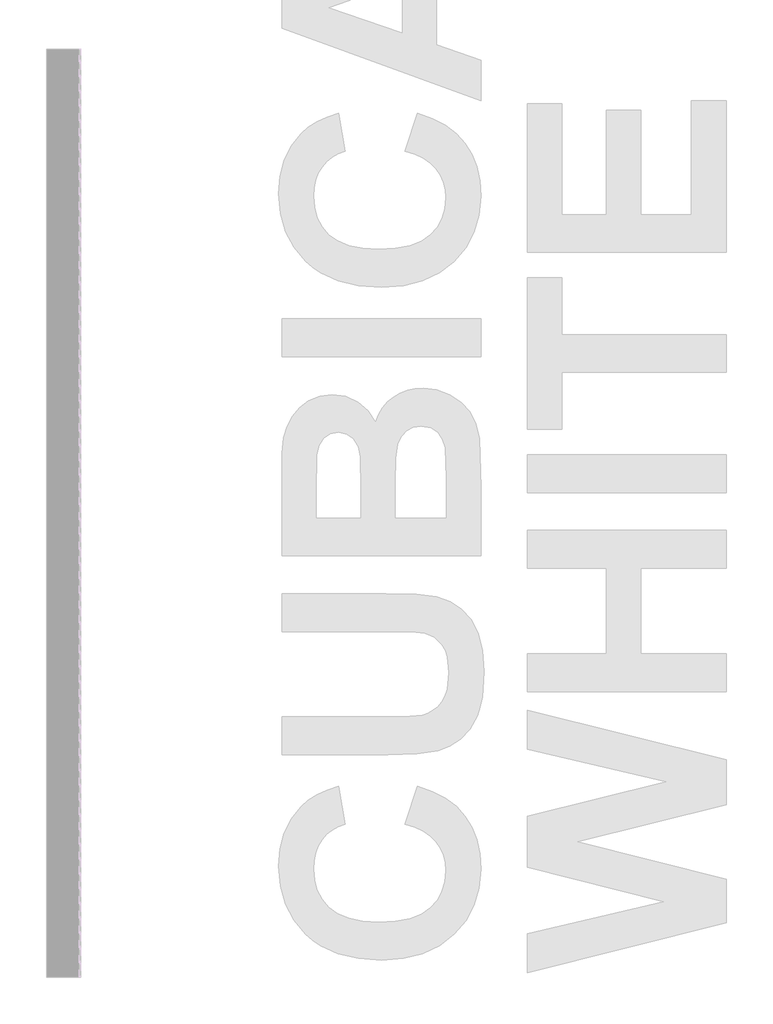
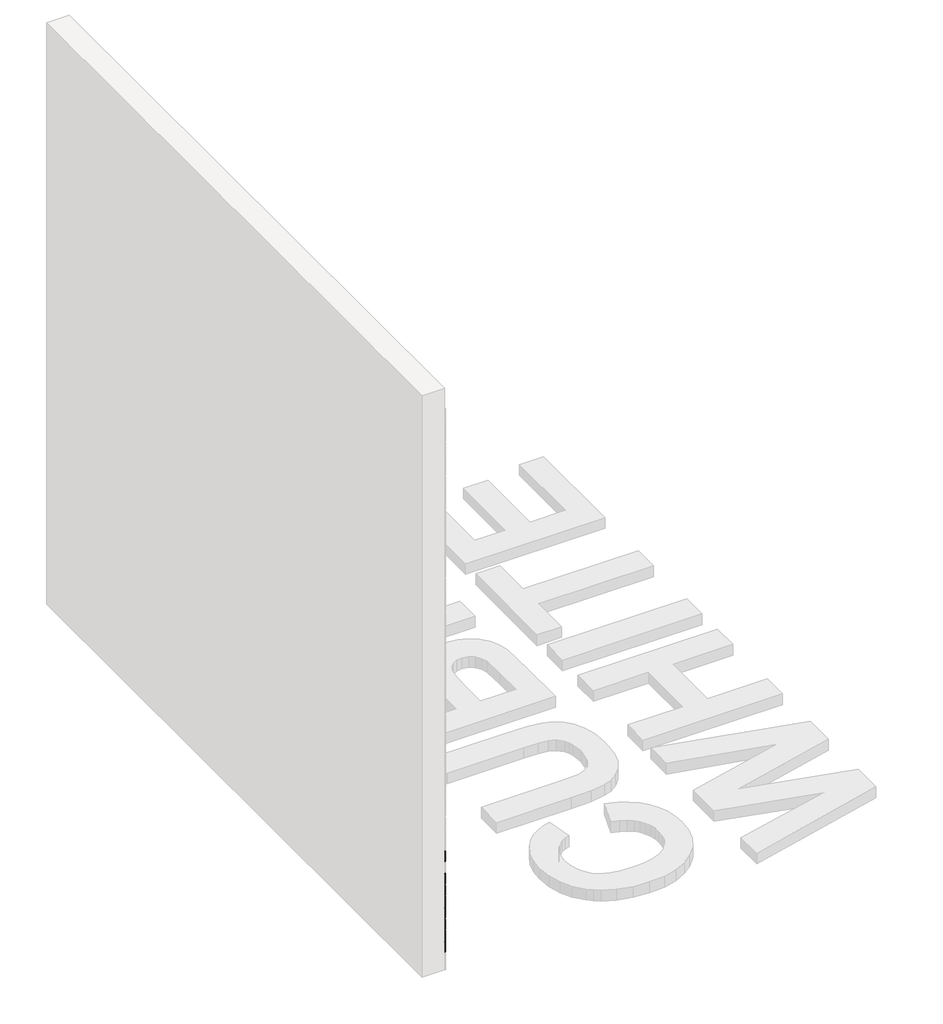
# One storey, part 98 of 121: 145 proxies.
"""IFC4 building model written with IfcOpenShell, lengths in millimetres."""

from ifc_helpers import new_model, si_unit, origin, place, context, project, spatial, transform, mapped, element, save
from components import generic_models_b2b2c5c1, generic_models_9bf73f6f, generic_models_5d175859, generic_models_45888c4d, generic_models_95f85f1d

model = new_model("IFC4")

# Units and contexts
model_context = context("Model", 3, world=origin())
ifc_project = project(units=[si_unit("LENGTHUNIT", "METRE", prefix="MILLI")], contexts=[model_context])

# Site, building, storey
site = spatial("IfcSite", under=ifc_project)
building = spatial("IfcBuilding", under=site)
storey = spatial("IfcBuildingStorey", under=building, Name="PORTOBELLO - SHOWROOM", Elevation=0.0)

# Proxies
placement = place(None, origin())
generic_models_shape = generic_models_b2b2c5c1(model_context)
element("IfcBuildingElementProxy", 1, Name="PBSHOP - CUBICA WHITE 4,8X8,3 : CUBICA WHITE - POSIÇÃO 01", ObjectType="PBSHOP - CUBICA WHITE 4,8X8,3 : CUBICA WHITE - POSIÇÃO 01", at=placement, inside=storey, context=model_context, shape_type="MappedRepresentation", body=[
    mapped(generic_models_shape, transform((150369.5341846, 19241.9673802, 118.3568052), x_axis=(0.0, 1.0, 0.0), y_axis=(0.0, 0.0, 1.0), z_axis=(1.0, 0.0, 0.0))),
])
element("IfcBuildingElementProxy", 2, Name="PBSHOP - CUBICA WHITE 4,8X8,3 : CUBICA WHITE - POSIÇÃO 01", ObjectType="PBSHOP - CUBICA WHITE 4,8X8,3 : CUBICA WHITE - POSIÇÃO 01", at=placement, inside=storey, context=model_context, shape_type="MappedRepresentation", body=[
    mapped(generic_models_shape, transform((150369.5341846, 19332.8066494, 118.3568052), x_axis=(0.0, 1.0, 0.0), y_axis=(0.0, 0.0, 1.0), z_axis=(1.0, 0.0, 0.0))),
])
element("IfcBuildingElementProxy", 3, Name="PBSHOP - CUBICA WHITE 4,8X8,3 : CUBICA WHITE - POSIÇÃO 01", ObjectType="PBSHOP - CUBICA WHITE 4,8X8,3 : CUBICA WHITE - POSIÇÃO 01", at=placement, inside=storey, context=model_context, shape_type="MappedRepresentation", body=[
    mapped(generic_models_shape, transform((150369.5341846, 19423.6459187, 118.3568052), x_axis=(0.0, 1.0, 0.0), y_axis=(0.0, 0.0, 1.0), z_axis=(1.0, 0.0, 0.0))),
])
element("IfcBuildingElementProxy", 4, Name="PBSHOP - CUBICA WHITE 4,8X8,3 : CUBICA WHITE - POSIÇÃO 01", ObjectType="PBSHOP - CUBICA WHITE 4,8X8,3 : CUBICA WHITE - POSIÇÃO 01", at=placement, inside=storey, context=model_context, shape_type="MappedRepresentation", body=[
    mapped(generic_models_shape, transform((150369.5341846, 19514.4851879, 118.3568052), x_axis=(0.0, 1.0, 0.0), y_axis=(0.0, 0.0, 1.0), z_axis=(1.0, 0.0, 0.0))),
])
element("IfcBuildingElementProxy", 5, Name="PBSHOP - CUBICA WHITE 4,8X8,3 : CUBICA WHITE - POSIÇÃO 01", ObjectType="PBSHOP - CUBICA WHITE 4,8X8,3 : CUBICA WHITE - POSIÇÃO 01", at=placement, inside=storey, context=model_context, shape_type="MappedRepresentation", body=[
    mapped(generic_models_shape, transform((150369.5341846, 19605.3244572, 118.3568052), x_axis=(0.0, 1.0, 0.0), y_axis=(0.0, 0.0, 1.0), z_axis=(1.0, 0.0, 0.0))),
])
element("IfcBuildingElementProxy", 6, Name="PBSHOP - CUBICA WHITE 4,8X8,3 : CUBICA WHITE - POSIÇÃO 01", ObjectType="PBSHOP - CUBICA WHITE 4,8X8,3 : CUBICA WHITE - POSIÇÃO 01", at=placement, inside=storey, context=model_context, shape_type="MappedRepresentation", body=[
    mapped(generic_models_shape, transform((150369.5341846, 19696.1637264, 118.3568052), x_axis=(0.0, 1.0, 0.0), y_axis=(0.0, 0.0, 1.0), z_axis=(1.0, 0.0, 0.0))),
])
element("IfcBuildingElementProxy", 7, Name="PBSHOP - CUBICA WHITE 4,8X8,3 : CUBICA WHITE - POSIÇÃO 01", ObjectType="PBSHOP - CUBICA WHITE 4,8X8,3 : CUBICA WHITE - POSIÇÃO 01", at=placement, inside=storey, context=model_context, shape_type="MappedRepresentation", body=[
    mapped(generic_models_shape, transform((150369.5341846, 19787.0029957, 118.3568052), x_axis=(0.0, 1.0, 0.0), y_axis=(0.0, 0.0, 1.0), z_axis=(1.0, 0.0, 0.0))),
])
element("IfcBuildingElementProxy", 8, Name="PBSHOP - CUBICA WHITE 4,8X8,3 : CUBICA WHITE - POSIÇÃO 01", ObjectType="PBSHOP - CUBICA WHITE 4,8X8,3 : CUBICA WHITE - POSIÇÃO 01", at=placement, inside=storey, context=model_context, shape_type="MappedRepresentation", body=[
    mapped(generic_models_shape, transform((150369.5341846, 19877.8422649, 118.3568052), x_axis=(0.0, 1.0, 0.0), y_axis=(0.0, 0.0, 1.0), z_axis=(1.0, 0.0, 0.0))),
])
element("IfcBuildingElementProxy", 9, Name="PBSHOP - CUBICA WHITE 4,8X8,3 : CUBICA WHITE - POSIÇÃO 01", ObjectType="PBSHOP - CUBICA WHITE 4,8X8,3 : CUBICA WHITE - POSIÇÃO 01", at=placement, inside=storey, context=model_context, shape_type="MappedRepresentation", body=[
    mapped(generic_models_shape, transform((150369.5341846, 19968.6815341, 118.3568052), x_axis=(0.0, 1.0, 0.0), y_axis=(0.0, 0.0, 1.0), z_axis=(1.0, 0.0, 0.0))),
])
element("IfcBuildingElementProxy", 10, Name="PBSHOP - CUBICA WHITE 4,8X8,3 : CUBICA WHITE - POSIÇÃO 01", ObjectType="PBSHOP - CUBICA WHITE 4,8X8,3 : CUBICA WHITE - POSIÇÃO 01", at=placement, inside=storey, context=model_context, shape_type="MappedRepresentation", body=[
    mapped(generic_models_shape, transform((150369.5341846, 19196.5477456, 197.2914436), x_axis=(0.0, 1.0, 0.0), y_axis=(0.0, 0.0, 1.0), z_axis=(1.0, 0.0, 0.0))),
])
element("IfcBuildingElementProxy", 11, Name="PBSHOP - CUBICA WHITE 4,8X8,3 : CUBICA WHITE - POSIÇÃO 01", ObjectType="PBSHOP - CUBICA WHITE 4,8X8,3 : CUBICA WHITE - POSIÇÃO 01", at=placement, inside=storey, context=model_context, shape_type="MappedRepresentation", body=[
    mapped(generic_models_shape, transform((150369.5341846, 19287.3870148, 197.2914436), x_axis=(0.0, 1.0, 0.0), y_axis=(0.0, 0.0, 1.0), z_axis=(1.0, 0.0, 0.0))),
])
element("IfcBuildingElementProxy", 12, Name="PBSHOP - CUBICA WHITE 4,8X8,3 : CUBICA WHITE - POSIÇÃO 01", ObjectType="PBSHOP - CUBICA WHITE 4,8X8,3 : CUBICA WHITE - POSIÇÃO 01", at=placement, inside=storey, context=model_context, shape_type="MappedRepresentation", body=[
    mapped(generic_models_shape, transform((150369.5341846, 19378.2262841, 197.2914436), x_axis=(0.0, 1.0, 0.0), y_axis=(0.0, 0.0, 1.0), z_axis=(1.0, 0.0, 0.0))),
])
element("IfcBuildingElementProxy", 13, Name="PBSHOP - CUBICA WHITE 4,8X8,3 : CUBICA WHITE - POSIÇÃO 01", ObjectType="PBSHOP - CUBICA WHITE 4,8X8,3 : CUBICA WHITE - POSIÇÃO 01", at=placement, inside=storey, context=model_context, shape_type="MappedRepresentation", body=[
    mapped(generic_models_shape, transform((150369.5341846, 19469.0655533, 197.2914436), x_axis=(0.0, 1.0, 0.0), y_axis=(0.0, 0.0, 1.0), z_axis=(1.0, 0.0, 0.0))),
])
element("IfcBuildingElementProxy", 14, Name="PBSHOP - CUBICA WHITE 4,8X8,3 : CUBICA WHITE - POSIÇÃO 01", ObjectType="PBSHOP - CUBICA WHITE 4,8X8,3 : CUBICA WHITE - POSIÇÃO 01", at=placement, inside=storey, context=model_context, shape_type="MappedRepresentation", body=[
    mapped(generic_models_shape, transform((150369.5341846, 19559.9048225, 197.2914436), x_axis=(0.0, 1.0, 0.0), y_axis=(0.0, 0.0, 1.0), z_axis=(1.0, 0.0, 0.0))),
])
element("IfcBuildingElementProxy", 15, Name="PBSHOP - CUBICA WHITE 4,8X8,3 : CUBICA WHITE - POSIÇÃO 01", ObjectType="PBSHOP - CUBICA WHITE 4,8X8,3 : CUBICA WHITE - POSIÇÃO 01", at=placement, inside=storey, context=model_context, shape_type="MappedRepresentation", body=[
    mapped(generic_models_shape, transform((150369.5341846, 19650.7440918, 197.2914436), x_axis=(0.0, 1.0, 0.0), y_axis=(0.0, 0.0, 1.0), z_axis=(1.0, 0.0, 0.0))),
])
element("IfcBuildingElementProxy", 16, Name="PBSHOP - CUBICA WHITE 4,8X8,3 : CUBICA WHITE - POSIÇÃO 01", ObjectType="PBSHOP - CUBICA WHITE 4,8X8,3 : CUBICA WHITE - POSIÇÃO 01", at=placement, inside=storey, context=model_context, shape_type="MappedRepresentation", body=[
    mapped(generic_models_shape, transform((150369.5341846, 19741.583361, 197.2914436), x_axis=(0.0, 1.0, 0.0), y_axis=(0.0, 0.0, 1.0), z_axis=(1.0, 0.0, 0.0))),
])
element("IfcBuildingElementProxy", 17, Name="PBSHOP - CUBICA WHITE 4,8X8,3 : CUBICA WHITE - POSIÇÃO 01", ObjectType="PBSHOP - CUBICA WHITE 4,8X8,3 : CUBICA WHITE - POSIÇÃO 01", at=placement, inside=storey, context=model_context, shape_type="MappedRepresentation", body=[
    mapped(generic_models_shape, transform((150369.5341846, 19832.4226303, 197.2914436), x_axis=(0.0, 1.0, 0.0), y_axis=(0.0, 0.0, 1.0), z_axis=(1.0, 0.0, 0.0))),
])
element("IfcBuildingElementProxy", 18, Name="PBSHOP - CUBICA WHITE 4,8X8,3 : CUBICA WHITE - POSIÇÃO 01", ObjectType="PBSHOP - CUBICA WHITE 4,8X8,3 : CUBICA WHITE - POSIÇÃO 01", at=placement, inside=storey, context=model_context, shape_type="MappedRepresentation", body=[
    mapped(generic_models_shape, transform((150369.5341846, 19923.2618995, 197.2914436), x_axis=(0.0, 1.0, 0.0), y_axis=(0.0, 0.0, 1.0), z_axis=(1.0, 0.0, 0.0))),
])
element("IfcBuildingElementProxy", 19, Name="PBSHOP - CUBICA WHITE 4,8X8,3 : CUBICA WHITE - POSIÇÃO 01", ObjectType="PBSHOP - CUBICA WHITE 4,8X8,3 : CUBICA WHITE - POSIÇÃO 01", at=placement, inside=storey, context=model_context, shape_type="MappedRepresentation", body=[
    mapped(generic_models_shape, transform((150369.5341846, 19241.9673802, 276.2260819), x_axis=(0.0, 1.0, 0.0), y_axis=(0.0, 0.0, 1.0), z_axis=(1.0, 0.0, 0.0))),
])
element("IfcBuildingElementProxy", 20, Name="PBSHOP - CUBICA WHITE 4,8X8,3 : CUBICA WHITE - POSIÇÃO 01", ObjectType="PBSHOP - CUBICA WHITE 4,8X8,3 : CUBICA WHITE - POSIÇÃO 01", at=placement, inside=storey, context=model_context, shape_type="MappedRepresentation", body=[
    mapped(generic_models_shape, transform((150369.5341846, 19332.8066494, 276.2260819), x_axis=(0.0, 1.0, 0.0), y_axis=(0.0, 0.0, 1.0), z_axis=(1.0, 0.0, 0.0))),
])
element("IfcBuildingElementProxy", 21, Name="PBSHOP - CUBICA WHITE 4,8X8,3 : CUBICA WHITE - POSIÇÃO 01", ObjectType="PBSHOP - CUBICA WHITE 4,8X8,3 : CUBICA WHITE - POSIÇÃO 01", at=placement, inside=storey, context=model_context, shape_type="MappedRepresentation", body=[
    mapped(generic_models_shape, transform((150369.5341846, 19423.6459187, 276.2260819), x_axis=(0.0, 1.0, 0.0), y_axis=(0.0, 0.0, 1.0), z_axis=(1.0, 0.0, 0.0))),
])
element("IfcBuildingElementProxy", 22, Name="PBSHOP - CUBICA WHITE 4,8X8,3 : CUBICA WHITE - POSIÇÃO 01", ObjectType="PBSHOP - CUBICA WHITE 4,8X8,3 : CUBICA WHITE - POSIÇÃO 01", at=placement, inside=storey, context=model_context, shape_type="MappedRepresentation", body=[
    mapped(generic_models_shape, transform((150369.5341846, 19514.4851879, 276.2260819), x_axis=(0.0, 1.0, 0.0), y_axis=(0.0, 0.0, 1.0), z_axis=(1.0, 0.0, 0.0))),
])
element("IfcBuildingElementProxy", 23, Name="PBSHOP - CUBICA WHITE 4,8X8,3 : CUBICA WHITE - POSIÇÃO 01", ObjectType="PBSHOP - CUBICA WHITE 4,8X8,3 : CUBICA WHITE - POSIÇÃO 01", at=placement, inside=storey, context=model_context, shape_type="MappedRepresentation", body=[
    mapped(generic_models_shape, transform((150369.5341846, 19605.3244572, 276.2260819), x_axis=(0.0, 1.0, 0.0), y_axis=(0.0, 0.0, 1.0), z_axis=(1.0, 0.0, 0.0))),
])
element("IfcBuildingElementProxy", 24, Name="PBSHOP - CUBICA WHITE 4,8X8,3 : CUBICA WHITE - POSIÇÃO 01", ObjectType="PBSHOP - CUBICA WHITE 4,8X8,3 : CUBICA WHITE - POSIÇÃO 01", at=placement, inside=storey, context=model_context, shape_type="MappedRepresentation", body=[
    mapped(generic_models_shape, transform((150369.5341846, 19696.1637264, 276.2260819), x_axis=(0.0, 1.0, 0.0), y_axis=(0.0, 0.0, 1.0), z_axis=(1.0, 0.0, 0.0))),
])
element("IfcBuildingElementProxy", 25, Name="PBSHOP - CUBICA WHITE 4,8X8,3 : CUBICA WHITE - POSIÇÃO 01", ObjectType="PBSHOP - CUBICA WHITE 4,8X8,3 : CUBICA WHITE - POSIÇÃO 01", at=placement, inside=storey, context=model_context, shape_type="MappedRepresentation", body=[
    mapped(generic_models_shape, transform((150369.5341846, 19787.0029957, 276.2260819), x_axis=(0.0, 1.0, 0.0), y_axis=(0.0, 0.0, 1.0), z_axis=(1.0, 0.0, 0.0))),
])
element("IfcBuildingElementProxy", 26, Name="PBSHOP - CUBICA WHITE 4,8X8,3 : CUBICA WHITE - POSIÇÃO 01", ObjectType="PBSHOP - CUBICA WHITE 4,8X8,3 : CUBICA WHITE - POSIÇÃO 01", at=placement, inside=storey, context=model_context, shape_type="MappedRepresentation", body=[
    mapped(generic_models_shape, transform((150369.5341846, 19877.8422649, 276.2260819), x_axis=(0.0, 1.0, 0.0), y_axis=(0.0, 0.0, 1.0), z_axis=(1.0, 0.0, 0.0))),
])
element("IfcBuildingElementProxy", 27, Name="PBSHOP - CUBICA WHITE 4,8X8,3 : CUBICA WHITE - POSIÇÃO 01", ObjectType="PBSHOP - CUBICA WHITE 4,8X8,3 : CUBICA WHITE - POSIÇÃO 01", at=placement, inside=storey, context=model_context, shape_type="MappedRepresentation", body=[
    mapped(generic_models_shape, transform((150369.5341846, 19968.6815341, 276.2260819), x_axis=(0.0, 1.0, 0.0), y_axis=(0.0, 0.0, 1.0), z_axis=(1.0, 0.0, 0.0))),
])
element("IfcBuildingElementProxy", 28, Name="PBSHOP - CUBICA WHITE 4,8X8,3 : CUBICA WHITE - POSIÇÃO 01", ObjectType="PBSHOP - CUBICA WHITE 4,8X8,3 : CUBICA WHITE - POSIÇÃO 01", at=placement, inside=storey, context=model_context, shape_type="MappedRepresentation", body=[
    mapped(generic_models_shape, transform((150369.5341846, 19196.5477456, 355.1607203), x_axis=(0.0, 1.0, 0.0), y_axis=(0.0, 0.0, 1.0), z_axis=(1.0, 0.0, 0.0))),
])
element("IfcBuildingElementProxy", 29, Name="PBSHOP - CUBICA WHITE 4,8X8,3 : CUBICA WHITE - POSIÇÃO 01", ObjectType="PBSHOP - CUBICA WHITE 4,8X8,3 : CUBICA WHITE - POSIÇÃO 01", at=placement, inside=storey, context=model_context, shape_type="MappedRepresentation", body=[
    mapped(generic_models_shape, transform((150369.5341846, 19287.3870148, 355.1607203), x_axis=(0.0, 1.0, 0.0), y_axis=(0.0, 0.0, 1.0), z_axis=(1.0, 0.0, 0.0))),
])
element("IfcBuildingElementProxy", 30, Name="PBSHOP - CUBICA WHITE 4,8X8,3 : CUBICA WHITE - POSIÇÃO 01", ObjectType="PBSHOP - CUBICA WHITE 4,8X8,3 : CUBICA WHITE - POSIÇÃO 01", at=placement, inside=storey, context=model_context, shape_type="MappedRepresentation", body=[
    mapped(generic_models_shape, transform((150369.5341846, 19378.2262841, 355.1607203), x_axis=(0.0, 1.0, 0.0), y_axis=(0.0, 0.0, 1.0), z_axis=(1.0, 0.0, 0.0))),
])
element("IfcBuildingElementProxy", 31, Name="PBSHOP - CUBICA WHITE 4,8X8,3 : CUBICA WHITE - POSIÇÃO 01", ObjectType="PBSHOP - CUBICA WHITE 4,8X8,3 : CUBICA WHITE - POSIÇÃO 01", at=placement, inside=storey, context=model_context, shape_type="MappedRepresentation", body=[
    mapped(generic_models_shape, transform((150369.5341846, 19469.0655533, 355.1607203), x_axis=(0.0, 1.0, 0.0), y_axis=(0.0, 0.0, 1.0), z_axis=(1.0, 0.0, 0.0))),
])
element("IfcBuildingElementProxy", 32, Name="PBSHOP - CUBICA WHITE 4,8X8,3 : CUBICA WHITE - POSIÇÃO 01", ObjectType="PBSHOP - CUBICA WHITE 4,8X8,3 : CUBICA WHITE - POSIÇÃO 01", at=placement, inside=storey, context=model_context, shape_type="MappedRepresentation", body=[
    mapped(generic_models_shape, transform((150369.5341846, 19559.9048225, 355.1607203), x_axis=(0.0, 1.0, 0.0), y_axis=(0.0, 0.0, 1.0), z_axis=(1.0, 0.0, 0.0))),
])
element("IfcBuildingElementProxy", 33, Name="PBSHOP - CUBICA WHITE 4,8X8,3 : CUBICA WHITE - POSIÇÃO 01", ObjectType="PBSHOP - CUBICA WHITE 4,8X8,3 : CUBICA WHITE - POSIÇÃO 01", at=placement, inside=storey, context=model_context, shape_type="MappedRepresentation", body=[
    mapped(generic_models_shape, transform((150369.5341846, 19650.7440918, 355.1607203), x_axis=(0.0, 1.0, 0.0), y_axis=(0.0, 0.0, 1.0), z_axis=(1.0, 0.0, 0.0))),
])
element("IfcBuildingElementProxy", 34, Name="PBSHOP - CUBICA WHITE 4,8X8,3 : CUBICA WHITE - POSIÇÃO 01", ObjectType="PBSHOP - CUBICA WHITE 4,8X8,3 : CUBICA WHITE - POSIÇÃO 01", at=placement, inside=storey, context=model_context, shape_type="MappedRepresentation", body=[
    mapped(generic_models_shape, transform((150369.5341846, 19741.583361, 355.1607203), x_axis=(0.0, 1.0, 0.0), y_axis=(0.0, 0.0, 1.0), z_axis=(1.0, 0.0, 0.0))),
])
element("IfcBuildingElementProxy", 35, Name="PBSHOP - CUBICA WHITE 4,8X8,3 : CUBICA WHITE - POSIÇÃO 01", ObjectType="PBSHOP - CUBICA WHITE 4,8X8,3 : CUBICA WHITE - POSIÇÃO 01", at=placement, inside=storey, context=model_context, shape_type="MappedRepresentation", body=[
    mapped(generic_models_shape, transform((150369.5341846, 19832.4226303, 355.1607203), x_axis=(0.0, 1.0, 0.0), y_axis=(0.0, 0.0, 1.0), z_axis=(1.0, 0.0, 0.0))),
])
element("IfcBuildingElementProxy", 36, Name="PBSHOP - CUBICA WHITE 4,8X8,3 : CUBICA WHITE - POSIÇÃO 01", ObjectType="PBSHOP - CUBICA WHITE 4,8X8,3 : CUBICA WHITE - POSIÇÃO 01", at=placement, inside=storey, context=model_context, shape_type="MappedRepresentation", body=[
    mapped(generic_models_shape, transform((150369.5341846, 19923.2618995, 355.1607203), x_axis=(0.0, 1.0, 0.0), y_axis=(0.0, 0.0, 1.0), z_axis=(1.0, 0.0, 0.0))),
])
element("IfcBuildingElementProxy", 37, Name="PBSHOP - CUBICA WHITE 4,8X8,3 : CUBICA WHITE - POSIÇÃO 01", ObjectType="PBSHOP - CUBICA WHITE 4,8X8,3 : CUBICA WHITE - POSIÇÃO 01", at=placement, inside=storey, context=model_context, shape_type="MappedRepresentation", body=[
    mapped(generic_models_shape, transform((150369.5341846, 19241.9673802, 434.0953587), x_axis=(0.0, 1.0, 0.0), y_axis=(0.0, 0.0, 1.0), z_axis=(1.0, 0.0, 0.0))),
])
element("IfcBuildingElementProxy", 38, Name="PBSHOP - CUBICA WHITE 4,8X8,3 : CUBICA WHITE - POSIÇÃO 01", ObjectType="PBSHOP - CUBICA WHITE 4,8X8,3 : CUBICA WHITE - POSIÇÃO 01", at=placement, inside=storey, context=model_context, shape_type="MappedRepresentation", body=[
    mapped(generic_models_shape, transform((150369.5341846, 19332.8066494, 434.0953587), x_axis=(0.0, 1.0, 0.0), y_axis=(0.0, 0.0, 1.0), z_axis=(1.0, 0.0, 0.0))),
])
element("IfcBuildingElementProxy", 39, Name="PBSHOP - CUBICA WHITE 4,8X8,3 : CUBICA WHITE - POSIÇÃO 01", ObjectType="PBSHOP - CUBICA WHITE 4,8X8,3 : CUBICA WHITE - POSIÇÃO 01", at=placement, inside=storey, context=model_context, shape_type="MappedRepresentation", body=[
    mapped(generic_models_shape, transform((150369.5341846, 19423.6459187, 434.0953587), x_axis=(0.0, 1.0, 0.0), y_axis=(0.0, 0.0, 1.0), z_axis=(1.0, 0.0, 0.0))),
])
element("IfcBuildingElementProxy", 40, Name="PBSHOP - CUBICA WHITE 4,8X8,3 : CUBICA WHITE - POSIÇÃO 01", ObjectType="PBSHOP - CUBICA WHITE 4,8X8,3 : CUBICA WHITE - POSIÇÃO 01", at=placement, inside=storey, context=model_context, shape_type="MappedRepresentation", body=[
    mapped(generic_models_shape, transform((150369.5341846, 19514.4851879, 434.0953587), x_axis=(0.0, 1.0, 0.0), y_axis=(0.0, 0.0, 1.0), z_axis=(1.0, 0.0, 0.0))),
])
element("IfcBuildingElementProxy", 41, Name="PBSHOP - CUBICA WHITE 4,8X8,3 : CUBICA WHITE - POSIÇÃO 01", ObjectType="PBSHOP - CUBICA WHITE 4,8X8,3 : CUBICA WHITE - POSIÇÃO 01", at=placement, inside=storey, context=model_context, shape_type="MappedRepresentation", body=[
    mapped(generic_models_shape, transform((150369.5341846, 19605.3244572, 434.0953587), x_axis=(0.0, 1.0, 0.0), y_axis=(0.0, 0.0, 1.0), z_axis=(1.0, 0.0, 0.0))),
])
element("IfcBuildingElementProxy", 42, Name="PBSHOP - CUBICA WHITE 4,8X8,3 : CUBICA WHITE - POSIÇÃO 01", ObjectType="PBSHOP - CUBICA WHITE 4,8X8,3 : CUBICA WHITE - POSIÇÃO 01", at=placement, inside=storey, context=model_context, shape_type="MappedRepresentation", body=[
    mapped(generic_models_shape, transform((150369.5341846, 19696.1637264, 434.0953587), x_axis=(0.0, 1.0, 0.0), y_axis=(0.0, 0.0, 1.0), z_axis=(1.0, 0.0, 0.0))),
])
element("IfcBuildingElementProxy", 43, Name="PBSHOP - CUBICA WHITE 4,8X8,3 : CUBICA WHITE - POSIÇÃO 01", ObjectType="PBSHOP - CUBICA WHITE 4,8X8,3 : CUBICA WHITE - POSIÇÃO 01", at=placement, inside=storey, context=model_context, shape_type="MappedRepresentation", body=[
    mapped(generic_models_shape, transform((150369.5341846, 19787.0029957, 434.0953587), x_axis=(0.0, 1.0, 0.0), y_axis=(0.0, 0.0, 1.0), z_axis=(1.0, 0.0, 0.0))),
])
element("IfcBuildingElementProxy", 44, Name="PBSHOP - CUBICA WHITE 4,8X8,3 : CUBICA WHITE - POSIÇÃO 01", ObjectType="PBSHOP - CUBICA WHITE 4,8X8,3 : CUBICA WHITE - POSIÇÃO 01", at=placement, inside=storey, context=model_context, shape_type="MappedRepresentation", body=[
    mapped(generic_models_shape, transform((150369.5341846, 19877.8422649, 434.0953587), x_axis=(0.0, 1.0, 0.0), y_axis=(0.0, 0.0, 1.0), z_axis=(1.0, 0.0, 0.0))),
])
element("IfcBuildingElementProxy", 45, Name="PBSHOP - CUBICA WHITE 4,8X8,3 : CUBICA WHITE - POSIÇÃO 01", ObjectType="PBSHOP - CUBICA WHITE 4,8X8,3 : CUBICA WHITE - POSIÇÃO 01", at=placement, inside=storey, context=model_context, shape_type="MappedRepresentation", body=[
    mapped(generic_models_shape, transform((150369.5341846, 19968.6815341, 434.0953587), x_axis=(0.0, 1.0, 0.0), y_axis=(0.0, 0.0, 1.0), z_axis=(1.0, 0.0, 0.0))),
])
element("IfcBuildingElementProxy", 46, Name="PBSHOP - CUBICA WHITE 4,8X8,3 : CUBICA WHITE - POSIÇÃO 01", ObjectType="PBSHOP - CUBICA WHITE 4,8X8,3 : CUBICA WHITE - POSIÇÃO 01", at=placement, inside=storey, context=model_context, shape_type="MappedRepresentation", body=[
    mapped(generic_models_shape, transform((150369.5341846, 19196.5477456, 513.0299971), x_axis=(0.0, 1.0, 0.0), y_axis=(0.0, 0.0, 1.0), z_axis=(1.0, 0.0, 0.0))),
])
generic_models_2_shape = generic_models_9bf73f6f(model_context)
element("IfcBuildingElementProxy", 47, Name="PBSHOP - CUBICA WHITE 4,8X8,3 : CUBICA WHITE - POSIÇÃO 03", ObjectType="PBSHOP - CUBICA WHITE 4,8X8,3 : CUBICA WHITE - POSIÇÃO 03", at=placement, inside=storey, context=model_context, shape_type="MappedRepresentation", body=[
    mapped(generic_models_2_shape, transform((150369.5341846, 19219.259722, 78.8482756), x_axis=(0.0, 1.0, 0.0), y_axis=(0.0, 0.0, 1.0), z_axis=(1.0, 0.0, 0.0))),
])
element("IfcBuildingElementProxy", 48, Name="PBSHOP - CUBICA WHITE 4,8X8,3 : CUBICA WHITE - POSIÇÃO 03", ObjectType="PBSHOP - CUBICA WHITE 4,8X8,3 : CUBICA WHITE - POSIÇÃO 03", at=placement, inside=storey, context=model_context, shape_type="MappedRepresentation", body=[
    mapped(generic_models_2_shape, transform((150369.5341846, 19310.0989913, 78.8482756), x_axis=(0.0, 1.0, 0.0), y_axis=(0.0, 0.0, 1.0), z_axis=(1.0, 0.0, 0.0))),
])
element("IfcBuildingElementProxy", 49, Name="PBSHOP - CUBICA WHITE 4,8X8,3 : CUBICA WHITE - POSIÇÃO 03", ObjectType="PBSHOP - CUBICA WHITE 4,8X8,3 : CUBICA WHITE - POSIÇÃO 03", at=placement, inside=storey, context=model_context, shape_type="MappedRepresentation", body=[
    mapped(generic_models_2_shape, transform((150369.5341846, 19400.9382605, 78.8482756), x_axis=(0.0, 1.0, 0.0), y_axis=(0.0, 0.0, 1.0), z_axis=(1.0, 0.0, 0.0))),
])
element("IfcBuildingElementProxy", 50, Name="PBSHOP - CUBICA WHITE 4,8X8,3 : CUBICA WHITE - POSIÇÃO 03", ObjectType="PBSHOP - CUBICA WHITE 4,8X8,3 : CUBICA WHITE - POSIÇÃO 03", at=placement, inside=storey, context=model_context, shape_type="MappedRepresentation", body=[
    mapped(generic_models_2_shape, transform((150369.5341846, 19491.7775298, 78.8482756), x_axis=(0.0, 1.0, 0.0), y_axis=(0.0, 0.0, 1.0), z_axis=(1.0, 0.0, 0.0))),
])
element("IfcBuildingElementProxy", 51, Name="PBSHOP - CUBICA WHITE 4,8X8,3 : CUBICA WHITE - POSIÇÃO 03", ObjectType="PBSHOP - CUBICA WHITE 4,8X8,3 : CUBICA WHITE - POSIÇÃO 03", at=placement, inside=storey, context=model_context, shape_type="MappedRepresentation", body=[
    mapped(generic_models_2_shape, transform((150369.5341846, 19582.616799, 78.8482756), x_axis=(0.0, 1.0, 0.0), y_axis=(0.0, 0.0, 1.0), z_axis=(1.0, 0.0, 0.0))),
])
element("IfcBuildingElementProxy", 52, Name="PBSHOP - CUBICA WHITE 4,8X8,3 : CUBICA WHITE - POSIÇÃO 03", ObjectType="PBSHOP - CUBICA WHITE 4,8X8,3 : CUBICA WHITE - POSIÇÃO 03", at=placement, inside=storey, context=model_context, shape_type="MappedRepresentation", body=[
    mapped(generic_models_2_shape, transform((150369.5341846, 19673.4560683, 78.8482756), x_axis=(0.0, 1.0, 0.0), y_axis=(0.0, 0.0, 1.0), z_axis=(1.0, 0.0, 0.0))),
])
element("IfcBuildingElementProxy", 53, Name="PBSHOP - CUBICA WHITE 4,8X8,3 : CUBICA WHITE - POSIÇÃO 03", ObjectType="PBSHOP - CUBICA WHITE 4,8X8,3 : CUBICA WHITE - POSIÇÃO 03", at=placement, inside=storey, context=model_context, shape_type="MappedRepresentation", body=[
    mapped(generic_models_2_shape, transform((150369.5341846, 19764.2953375, 78.8482756), x_axis=(0.0, 1.0, 0.0), y_axis=(0.0, 0.0, 1.0), z_axis=(1.0, 0.0, 0.0))),
])
element("IfcBuildingElementProxy", 54, Name="PBSHOP - CUBICA WHITE 4,8X8,3 : CUBICA WHITE - POSIÇÃO 03", ObjectType="PBSHOP - CUBICA WHITE 4,8X8,3 : CUBICA WHITE - POSIÇÃO 03", at=placement, inside=storey, context=model_context, shape_type="MappedRepresentation", body=[
    mapped(generic_models_2_shape, transform((150369.5341846, 19855.1346068, 78.8482756), x_axis=(0.0, 1.0, 0.0), y_axis=(0.0, 0.0, 1.0), z_axis=(1.0, 0.0, 0.0))),
])
element("IfcBuildingElementProxy", 55, Name="PBSHOP - CUBICA WHITE 4,8X8,3 : CUBICA WHITE - POSIÇÃO 03", ObjectType="PBSHOP - CUBICA WHITE 4,8X8,3 : CUBICA WHITE - POSIÇÃO 03", at=placement, inside=storey, context=model_context, shape_type="MappedRepresentation", body=[
    mapped(generic_models_2_shape, transform((150369.5341846, 19945.973876, 78.8482756), x_axis=(0.0, 1.0, 0.0), y_axis=(0.0, 0.0, 1.0), z_axis=(1.0, 0.0, 0.0))),
])
element("IfcBuildingElementProxy", 56, Name="PBSHOP - CUBICA WHITE 4,8X8,3 : CUBICA WHITE - POSIÇÃO 03", ObjectType="PBSHOP - CUBICA WHITE 4,8X8,3 : CUBICA WHITE - POSIÇÃO 03", at=placement, inside=storey, context=model_context, shape_type="MappedRepresentation", body=[
    mapped(generic_models_2_shape, transform((150369.5341846, 19264.6793567, 157.7829139), x_axis=(0.0, 1.0, 0.0), y_axis=(0.0, 0.0, 1.0), z_axis=(1.0, 0.0, 0.0))),
])
element("IfcBuildingElementProxy", 57, Name="PBSHOP - CUBICA WHITE 4,8X8,3 : CUBICA WHITE - POSIÇÃO 03", ObjectType="PBSHOP - CUBICA WHITE 4,8X8,3 : CUBICA WHITE - POSIÇÃO 03", at=placement, inside=storey, context=model_context, shape_type="MappedRepresentation", body=[
    mapped(generic_models_2_shape, transform((150369.5341846, 19355.5186259, 157.7829139), x_axis=(0.0, 1.0, 0.0), y_axis=(0.0, 0.0, 1.0), z_axis=(1.0, 0.0, 0.0))),
])
element("IfcBuildingElementProxy", 58, Name="PBSHOP - CUBICA WHITE 4,8X8,3 : CUBICA WHITE - POSIÇÃO 03", ObjectType="PBSHOP - CUBICA WHITE 4,8X8,3 : CUBICA WHITE - POSIÇÃO 03", at=placement, inside=storey, context=model_context, shape_type="MappedRepresentation", body=[
    mapped(generic_models_2_shape, transform((150369.5341846, 19446.3578952, 157.7829139), x_axis=(0.0, 1.0, 0.0), y_axis=(0.0, 0.0, 1.0), z_axis=(1.0, 0.0, 0.0))),
])
element("IfcBuildingElementProxy", 59, Name="PBSHOP - CUBICA WHITE 4,8X8,3 : CUBICA WHITE - POSIÇÃO 03", ObjectType="PBSHOP - CUBICA WHITE 4,8X8,3 : CUBICA WHITE - POSIÇÃO 03", at=placement, inside=storey, context=model_context, shape_type="MappedRepresentation", body=[
    mapped(generic_models_2_shape, transform((150369.5341846, 19537.1971644, 157.7829139), x_axis=(0.0, 1.0, 0.0), y_axis=(0.0, 0.0, 1.0), z_axis=(1.0, 0.0, 0.0))),
])
element("IfcBuildingElementProxy", 60, Name="PBSHOP - CUBICA WHITE 4,8X8,3 : CUBICA WHITE - POSIÇÃO 03", ObjectType="PBSHOP - CUBICA WHITE 4,8X8,3 : CUBICA WHITE - POSIÇÃO 03", at=placement, inside=storey, context=model_context, shape_type="MappedRepresentation", body=[
    mapped(generic_models_2_shape, transform((150369.5341846, 19628.0364336, 157.7829139), x_axis=(0.0, 1.0, 0.0), y_axis=(0.0, 0.0, 1.0), z_axis=(1.0, 0.0, 0.0))),
])
element("IfcBuildingElementProxy", 61, Name="PBSHOP - CUBICA WHITE 4,8X8,3 : CUBICA WHITE - POSIÇÃO 03", ObjectType="PBSHOP - CUBICA WHITE 4,8X8,3 : CUBICA WHITE - POSIÇÃO 03", at=placement, inside=storey, context=model_context, shape_type="MappedRepresentation", body=[
    mapped(generic_models_2_shape, transform((150369.5341846, 19718.8757029, 157.7829139), x_axis=(0.0, 1.0, 0.0), y_axis=(0.0, 0.0, 1.0), z_axis=(1.0, 0.0, 0.0))),
])
element("IfcBuildingElementProxy", 62, Name="PBSHOP - CUBICA WHITE 4,8X8,3 : CUBICA WHITE - POSIÇÃO 03", ObjectType="PBSHOP - CUBICA WHITE 4,8X8,3 : CUBICA WHITE - POSIÇÃO 03", at=placement, inside=storey, context=model_context, shape_type="MappedRepresentation", body=[
    mapped(generic_models_2_shape, transform((150369.5341846, 19809.7149721, 157.7829139), x_axis=(0.0, 1.0, 0.0), y_axis=(0.0, 0.0, 1.0), z_axis=(1.0, 0.0, 0.0))),
])
element("IfcBuildingElementProxy", 63, Name="PBSHOP - CUBICA WHITE 4,8X8,3 : CUBICA WHITE - POSIÇÃO 03", ObjectType="PBSHOP - CUBICA WHITE 4,8X8,3 : CUBICA WHITE - POSIÇÃO 03", at=placement, inside=storey, context=model_context, shape_type="MappedRepresentation", body=[
    mapped(generic_models_2_shape, transform((150369.5341846, 19900.5542414, 157.7829139), x_axis=(0.0, 1.0, 0.0), y_axis=(0.0, 0.0, 1.0), z_axis=(1.0, 0.0, 0.0))),
])
element("IfcBuildingElementProxy", 64, Name="PBSHOP - CUBICA WHITE 4,8X8,3 : CUBICA WHITE - POSIÇÃO 03", ObjectType="PBSHOP - CUBICA WHITE 4,8X8,3 : CUBICA WHITE - POSIÇÃO 03", at=placement, inside=storey, context=model_context, shape_type="MappedRepresentation", body=[
    mapped(generic_models_2_shape, transform((150369.5341846, 19991.3935106, 157.7829139), x_axis=(0.0, 1.0, 0.0), y_axis=(0.0, 0.0, 1.0), z_axis=(1.0, 0.0, 0.0))),
])
element("IfcBuildingElementProxy", 65, Name="PBSHOP - CUBICA WHITE 4,8X8,3 : CUBICA WHITE - POSIÇÃO 03", ObjectType="PBSHOP - CUBICA WHITE 4,8X8,3 : CUBICA WHITE - POSIÇÃO 03", at=placement, inside=storey, context=model_context, shape_type="MappedRepresentation", body=[
    mapped(generic_models_2_shape, transform((150369.5341846, 19219.259722, 236.7175523), x_axis=(0.0, 1.0, 0.0), y_axis=(0.0, 0.0, 1.0), z_axis=(1.0, 0.0, 0.0))),
])
element("IfcBuildingElementProxy", 66, Name="PBSHOP - CUBICA WHITE 4,8X8,3 : CUBICA WHITE - POSIÇÃO 03", ObjectType="PBSHOP - CUBICA WHITE 4,8X8,3 : CUBICA WHITE - POSIÇÃO 03", at=placement, inside=storey, context=model_context, shape_type="MappedRepresentation", body=[
    mapped(generic_models_2_shape, transform((150369.5341846, 19310.0989913, 236.7175523), x_axis=(0.0, 1.0, 0.0), y_axis=(0.0, 0.0, 1.0), z_axis=(1.0, 0.0, 0.0))),
])
element("IfcBuildingElementProxy", 67, Name="PBSHOP - CUBICA WHITE 4,8X8,3 : CUBICA WHITE - POSIÇÃO 03", ObjectType="PBSHOP - CUBICA WHITE 4,8X8,3 : CUBICA WHITE - POSIÇÃO 03", at=placement, inside=storey, context=model_context, shape_type="MappedRepresentation", body=[
    mapped(generic_models_2_shape, transform((150369.5341846, 19400.9382605, 236.7175523), x_axis=(0.0, 1.0, 0.0), y_axis=(0.0, 0.0, 1.0), z_axis=(1.0, 0.0, 0.0))),
])
element("IfcBuildingElementProxy", 68, Name="PBSHOP - CUBICA WHITE 4,8X8,3 : CUBICA WHITE - POSIÇÃO 03", ObjectType="PBSHOP - CUBICA WHITE 4,8X8,3 : CUBICA WHITE - POSIÇÃO 03", at=placement, inside=storey, context=model_context, shape_type="MappedRepresentation", body=[
    mapped(generic_models_2_shape, transform((150369.5341846, 19491.7775298, 236.7175523), x_axis=(0.0, 1.0, 0.0), y_axis=(0.0, 0.0, 1.0), z_axis=(1.0, 0.0, 0.0))),
])
element("IfcBuildingElementProxy", 69, Name="PBSHOP - CUBICA WHITE 4,8X8,3 : CUBICA WHITE - POSIÇÃO 03", ObjectType="PBSHOP - CUBICA WHITE 4,8X8,3 : CUBICA WHITE - POSIÇÃO 03", at=placement, inside=storey, context=model_context, shape_type="MappedRepresentation", body=[
    mapped(generic_models_2_shape, transform((150369.5341846, 19582.616799, 236.7175523), x_axis=(0.0, 1.0, 0.0), y_axis=(0.0, 0.0, 1.0), z_axis=(1.0, 0.0, 0.0))),
])
element("IfcBuildingElementProxy", 70, Name="PBSHOP - CUBICA WHITE 4,8X8,3 : CUBICA WHITE - POSIÇÃO 03", ObjectType="PBSHOP - CUBICA WHITE 4,8X8,3 : CUBICA WHITE - POSIÇÃO 03", at=placement, inside=storey, context=model_context, shape_type="MappedRepresentation", body=[
    mapped(generic_models_2_shape, transform((150369.5341846, 19673.4560683, 236.7175523), x_axis=(0.0, 1.0, 0.0), y_axis=(0.0, 0.0, 1.0), z_axis=(1.0, 0.0, 0.0))),
])
element("IfcBuildingElementProxy", 71, Name="PBSHOP - CUBICA WHITE 4,8X8,3 : CUBICA WHITE - POSIÇÃO 03", ObjectType="PBSHOP - CUBICA WHITE 4,8X8,3 : CUBICA WHITE - POSIÇÃO 03", at=placement, inside=storey, context=model_context, shape_type="MappedRepresentation", body=[
    mapped(generic_models_2_shape, transform((150369.5341846, 19764.2953375, 236.7175523), x_axis=(0.0, 1.0, 0.0), y_axis=(0.0, 0.0, 1.0), z_axis=(1.0, 0.0, 0.0))),
])
element("IfcBuildingElementProxy", 72, Name="PBSHOP - CUBICA WHITE 4,8X8,3 : CUBICA WHITE - POSIÇÃO 03", ObjectType="PBSHOP - CUBICA WHITE 4,8X8,3 : CUBICA WHITE - POSIÇÃO 03", at=placement, inside=storey, context=model_context, shape_type="MappedRepresentation", body=[
    mapped(generic_models_2_shape, transform((150369.5341846, 19855.1346068, 236.7175523), x_axis=(0.0, 1.0, 0.0), y_axis=(0.0, 0.0, 1.0), z_axis=(1.0, 0.0, 0.0))),
])
element("IfcBuildingElementProxy", 73, Name="PBSHOP - CUBICA WHITE 4,8X8,3 : CUBICA WHITE - POSIÇÃO 03", ObjectType="PBSHOP - CUBICA WHITE 4,8X8,3 : CUBICA WHITE - POSIÇÃO 03", at=placement, inside=storey, context=model_context, shape_type="MappedRepresentation", body=[
    mapped(generic_models_2_shape, transform((150369.5341846, 19945.973876, 236.7175523), x_axis=(0.0, 1.0, 0.0), y_axis=(0.0, 0.0, 1.0), z_axis=(1.0, 0.0, 0.0))),
])
element("IfcBuildingElementProxy", 74, Name="PBSHOP - CUBICA WHITE 4,8X8,3 : CUBICA WHITE - POSIÇÃO 03", ObjectType="PBSHOP - CUBICA WHITE 4,8X8,3 : CUBICA WHITE - POSIÇÃO 03", at=placement, inside=storey, context=model_context, shape_type="MappedRepresentation", body=[
    mapped(generic_models_2_shape, transform((150369.5341846, 19264.6793567, 315.6521907), x_axis=(0.0, 1.0, 0.0), y_axis=(0.0, 0.0, 1.0), z_axis=(1.0, 0.0, 0.0))),
])
element("IfcBuildingElementProxy", 75, Name="PBSHOP - CUBICA WHITE 4,8X8,3 : CUBICA WHITE - POSIÇÃO 03", ObjectType="PBSHOP - CUBICA WHITE 4,8X8,3 : CUBICA WHITE - POSIÇÃO 03", at=placement, inside=storey, context=model_context, shape_type="MappedRepresentation", body=[
    mapped(generic_models_2_shape, transform((150369.5341846, 19355.5186259, 315.6521907), x_axis=(0.0, 1.0, 0.0), y_axis=(0.0, 0.0, 1.0), z_axis=(1.0, 0.0, 0.0))),
])
element("IfcBuildingElementProxy", 76, Name="PBSHOP - CUBICA WHITE 4,8X8,3 : CUBICA WHITE - POSIÇÃO 03", ObjectType="PBSHOP - CUBICA WHITE 4,8X8,3 : CUBICA WHITE - POSIÇÃO 03", at=placement, inside=storey, context=model_context, shape_type="MappedRepresentation", body=[
    mapped(generic_models_2_shape, transform((150369.5341846, 19446.3578952, 315.6521907), x_axis=(0.0, 1.0, 0.0), y_axis=(0.0, 0.0, 1.0), z_axis=(1.0, 0.0, 0.0))),
])
element("IfcBuildingElementProxy", 77, Name="PBSHOP - CUBICA WHITE 4,8X8,3 : CUBICA WHITE - POSIÇÃO 03", ObjectType="PBSHOP - CUBICA WHITE 4,8X8,3 : CUBICA WHITE - POSIÇÃO 03", at=placement, inside=storey, context=model_context, shape_type="MappedRepresentation", body=[
    mapped(generic_models_2_shape, transform((150369.5341846, 19537.1971644, 315.6521907), x_axis=(0.0, 1.0, 0.0), y_axis=(0.0, 0.0, 1.0), z_axis=(1.0, 0.0, 0.0))),
])
element("IfcBuildingElementProxy", 78, Name="PBSHOP - CUBICA WHITE 4,8X8,3 : CUBICA WHITE - POSIÇÃO 03", ObjectType="PBSHOP - CUBICA WHITE 4,8X8,3 : CUBICA WHITE - POSIÇÃO 03", at=placement, inside=storey, context=model_context, shape_type="MappedRepresentation", body=[
    mapped(generic_models_2_shape, transform((150369.5341846, 19628.0364336, 315.6521907), x_axis=(0.0, 1.0, 0.0), y_axis=(0.0, 0.0, 1.0), z_axis=(1.0, 0.0, 0.0))),
])
element("IfcBuildingElementProxy", 79, Name="PBSHOP - CUBICA WHITE 4,8X8,3 : CUBICA WHITE - POSIÇÃO 03", ObjectType="PBSHOP - CUBICA WHITE 4,8X8,3 : CUBICA WHITE - POSIÇÃO 03", at=placement, inside=storey, context=model_context, shape_type="MappedRepresentation", body=[
    mapped(generic_models_2_shape, transform((150369.5341846, 19718.8757029, 315.6521907), x_axis=(0.0, 1.0, 0.0), y_axis=(0.0, 0.0, 1.0), z_axis=(1.0, 0.0, 0.0))),
])
element("IfcBuildingElementProxy", 80, Name="PBSHOP - CUBICA WHITE 4,8X8,3 : CUBICA WHITE - POSIÇÃO 03", ObjectType="PBSHOP - CUBICA WHITE 4,8X8,3 : CUBICA WHITE - POSIÇÃO 03", at=placement, inside=storey, context=model_context, shape_type="MappedRepresentation", body=[
    mapped(generic_models_2_shape, transform((150369.5341846, 19809.7149721, 315.6521907), x_axis=(0.0, 1.0, 0.0), y_axis=(0.0, 0.0, 1.0), z_axis=(1.0, 0.0, 0.0))),
])
element("IfcBuildingElementProxy", 81, Name="PBSHOP - CUBICA WHITE 4,8X8,3 : CUBICA WHITE - POSIÇÃO 03", ObjectType="PBSHOP - CUBICA WHITE 4,8X8,3 : CUBICA WHITE - POSIÇÃO 03", at=placement, inside=storey, context=model_context, shape_type="MappedRepresentation", body=[
    mapped(generic_models_2_shape, transform((150369.5341846, 19900.5542414, 315.6521907), x_axis=(0.0, 1.0, 0.0), y_axis=(0.0, 0.0, 1.0), z_axis=(1.0, 0.0, 0.0))),
])
element("IfcBuildingElementProxy", 82, Name="PBSHOP - CUBICA WHITE 4,8X8,3 : CUBICA WHITE - POSIÇÃO 03", ObjectType="PBSHOP - CUBICA WHITE 4,8X8,3 : CUBICA WHITE - POSIÇÃO 03", at=placement, inside=storey, context=model_context, shape_type="MappedRepresentation", body=[
    mapped(generic_models_2_shape, transform((150369.5341846, 19991.3935106, 315.6521907), x_axis=(0.0, 1.0, 0.0), y_axis=(0.0, 0.0, 1.0), z_axis=(1.0, 0.0, 0.0))),
])
element("IfcBuildingElementProxy", 83, Name="PBSHOP - CUBICA WHITE 4,8X8,3 : CUBICA WHITE - POSIÇÃO 03", ObjectType="PBSHOP - CUBICA WHITE 4,8X8,3 : CUBICA WHITE - POSIÇÃO 03", at=placement, inside=storey, context=model_context, shape_type="MappedRepresentation", body=[
    mapped(generic_models_2_shape, transform((150369.5341846, 19219.259722, 394.5868291), x_axis=(0.0, 1.0, 0.0), y_axis=(0.0, 0.0, 1.0), z_axis=(1.0, 0.0, 0.0))),
])
element("IfcBuildingElementProxy", 84, Name="PBSHOP - CUBICA WHITE 4,8X8,3 : CUBICA WHITE - POSIÇÃO 03", ObjectType="PBSHOP - CUBICA WHITE 4,8X8,3 : CUBICA WHITE - POSIÇÃO 03", at=placement, inside=storey, context=model_context, shape_type="MappedRepresentation", body=[
    mapped(generic_models_2_shape, transform((150369.5341846, 19310.0989913, 394.5868291), x_axis=(0.0, 1.0, 0.0), y_axis=(0.0, 0.0, 1.0), z_axis=(1.0, 0.0, 0.0))),
])
element("IfcBuildingElementProxy", 85, Name="PBSHOP - CUBICA WHITE 4,8X8,3 : CUBICA WHITE - POSIÇÃO 03", ObjectType="PBSHOP - CUBICA WHITE 4,8X8,3 : CUBICA WHITE - POSIÇÃO 03", at=placement, inside=storey, context=model_context, shape_type="MappedRepresentation", body=[
    mapped(generic_models_2_shape, transform((150369.5341846, 19400.9382605, 394.5868291), x_axis=(0.0, 1.0, 0.0), y_axis=(0.0, 0.0, 1.0), z_axis=(1.0, 0.0, 0.0))),
])
element("IfcBuildingElementProxy", 86, Name="PBSHOP - CUBICA WHITE 4,8X8,3 : CUBICA WHITE - POSIÇÃO 03", ObjectType="PBSHOP - CUBICA WHITE 4,8X8,3 : CUBICA WHITE - POSIÇÃO 03", at=placement, inside=storey, context=model_context, shape_type="MappedRepresentation", body=[
    mapped(generic_models_2_shape, transform((150369.5341846, 19491.7775298, 394.5868291), x_axis=(0.0, 1.0, 0.0), y_axis=(0.0, 0.0, 1.0), z_axis=(1.0, 0.0, 0.0))),
])
element("IfcBuildingElementProxy", 87, Name="PBSHOP - CUBICA WHITE 4,8X8,3 : CUBICA WHITE - POSIÇÃO 03", ObjectType="PBSHOP - CUBICA WHITE 4,8X8,3 : CUBICA WHITE - POSIÇÃO 03", at=placement, inside=storey, context=model_context, shape_type="MappedRepresentation", body=[
    mapped(generic_models_2_shape, transform((150369.5341846, 19582.616799, 394.5868291), x_axis=(0.0, 1.0, 0.0), y_axis=(0.0, 0.0, 1.0), z_axis=(1.0, 0.0, 0.0))),
])
element("IfcBuildingElementProxy", 88, Name="PBSHOP - CUBICA WHITE 4,8X8,3 : CUBICA WHITE - POSIÇÃO 03", ObjectType="PBSHOP - CUBICA WHITE 4,8X8,3 : CUBICA WHITE - POSIÇÃO 03", at=placement, inside=storey, context=model_context, shape_type="MappedRepresentation", body=[
    mapped(generic_models_2_shape, transform((150369.5341846, 19673.4560683, 394.5868291), x_axis=(0.0, 1.0, 0.0), y_axis=(0.0, 0.0, 1.0), z_axis=(1.0, 0.0, 0.0))),
])
element("IfcBuildingElementProxy", 89, Name="PBSHOP - CUBICA WHITE 4,8X8,3 : CUBICA WHITE - POSIÇÃO 03", ObjectType="PBSHOP - CUBICA WHITE 4,8X8,3 : CUBICA WHITE - POSIÇÃO 03", at=placement, inside=storey, context=model_context, shape_type="MappedRepresentation", body=[
    mapped(generic_models_2_shape, transform((150369.5341846, 19764.2953375, 394.5868291), x_axis=(0.0, 1.0, 0.0), y_axis=(0.0, 0.0, 1.0), z_axis=(1.0, 0.0, 0.0))),
])
element("IfcBuildingElementProxy", 90, Name="PBSHOP - CUBICA WHITE 4,8X8,3 : CUBICA WHITE - POSIÇÃO 03", ObjectType="PBSHOP - CUBICA WHITE 4,8X8,3 : CUBICA WHITE - POSIÇÃO 03", at=placement, inside=storey, context=model_context, shape_type="MappedRepresentation", body=[
    mapped(generic_models_2_shape, transform((150369.5341846, 19855.1346068, 394.5868291), x_axis=(0.0, 1.0, 0.0), y_axis=(0.0, 0.0, 1.0), z_axis=(1.0, 0.0, 0.0))),
])
element("IfcBuildingElementProxy", 91, Name="PBSHOP - CUBICA WHITE 4,8X8,3 : CUBICA WHITE - POSIÇÃO 03", ObjectType="PBSHOP - CUBICA WHITE 4,8X8,3 : CUBICA WHITE - POSIÇÃO 03", at=placement, inside=storey, context=model_context, shape_type="MappedRepresentation", body=[
    mapped(generic_models_2_shape, transform((150369.5341846, 19945.973876, 394.5868291), x_axis=(0.0, 1.0, 0.0), y_axis=(0.0, 0.0, 1.0), z_axis=(1.0, 0.0, 0.0))),
])
generic_models_3_shape = generic_models_5d175859(model_context)
element("IfcBuildingElementProxy", 92, Name="PBSHOP - CUBICA WHITE 4,8X8,3 : CUBICA WHITE - POSIÇÃO 01", ObjectType="PBSHOP - CUBICA WHITE 4,8X8,3 : CUBICA WHITE - POSIÇÃO 01", at=placement, inside=storey, context=model_context, shape_type="MappedRepresentation", body=[
    mapped(generic_models_3_shape, transform((150369.5341846, 19287.3913331, 118.3568052), x_axis=(0.0, -1.0, 0.0), y_axis=(0.0, 0.0, -1.0), z_axis=(1.0, 0.0, 0.0))),
])
element("IfcBuildingElementProxy", 93, Name="PBSHOP - CUBICA WHITE 4,8X8,3 : CUBICA WHITE - POSIÇÃO 01", ObjectType="PBSHOP - CUBICA WHITE 4,8X8,3 : CUBICA WHITE - POSIÇÃO 01", at=placement, inside=storey, context=model_context, shape_type="MappedRepresentation", body=[
    mapped(generic_models_3_shape, transform((150369.5341846, 19378.2306024, 118.3568052), x_axis=(0.0, -1.0, 0.0), y_axis=(0.0, 0.0, -1.0), z_axis=(1.0, 0.0, 0.0))),
])
element("IfcBuildingElementProxy", 94, Name="PBSHOP - CUBICA WHITE 4,8X8,3 : CUBICA WHITE - POSIÇÃO 01", ObjectType="PBSHOP - CUBICA WHITE 4,8X8,3 : CUBICA WHITE - POSIÇÃO 01", at=placement, inside=storey, context=model_context, shape_type="MappedRepresentation", body=[
    mapped(generic_models_3_shape, transform((150369.5341846, 19469.0698716, 118.3568052), x_axis=(0.0, -1.0, 0.0), y_axis=(0.0, 0.0, -1.0), z_axis=(1.0, 0.0, 0.0))),
])
element("IfcBuildingElementProxy", 95, Name="PBSHOP - CUBICA WHITE 4,8X8,3 : CUBICA WHITE - POSIÇÃO 01", ObjectType="PBSHOP - CUBICA WHITE 4,8X8,3 : CUBICA WHITE - POSIÇÃO 01", at=placement, inside=storey, context=model_context, shape_type="MappedRepresentation", body=[
    mapped(generic_models_3_shape, transform((150369.5341846, 19559.9091409, 118.3568052), x_axis=(0.0, -1.0, 0.0), y_axis=(0.0, 0.0, -1.0), z_axis=(1.0, 0.0, 0.0))),
])
element("IfcBuildingElementProxy", 96, Name="PBSHOP - CUBICA WHITE 4,8X8,3 : CUBICA WHITE - POSIÇÃO 01", ObjectType="PBSHOP - CUBICA WHITE 4,8X8,3 : CUBICA WHITE - POSIÇÃO 01", at=placement, inside=storey, context=model_context, shape_type="MappedRepresentation", body=[
    mapped(generic_models_3_shape, transform((150369.5341846, 19650.7484101, 118.3568052), x_axis=(0.0, -1.0, 0.0), y_axis=(0.0, 0.0, -1.0), z_axis=(1.0, 0.0, 0.0))),
])
element("IfcBuildingElementProxy", 97, Name="PBSHOP - CUBICA WHITE 4,8X8,3 : CUBICA WHITE - POSIÇÃO 01", ObjectType="PBSHOP - CUBICA WHITE 4,8X8,3 : CUBICA WHITE - POSIÇÃO 01", at=placement, inside=storey, context=model_context, shape_type="MappedRepresentation", body=[
    mapped(generic_models_3_shape, transform((150369.5341846, 19741.5876794, 118.3568052), x_axis=(0.0, -1.0, 0.0), y_axis=(0.0, 0.0, -1.0), z_axis=(1.0, 0.0, 0.0))),
])
element("IfcBuildingElementProxy", 98, Name="PBSHOP - CUBICA WHITE 4,8X8,3 : CUBICA WHITE - POSIÇÃO 01", ObjectType="PBSHOP - CUBICA WHITE 4,8X8,3 : CUBICA WHITE - POSIÇÃO 01", at=placement, inside=storey, context=model_context, shape_type="MappedRepresentation", body=[
    mapped(generic_models_3_shape, transform((150369.5341846, 19832.4269486, 118.3568052), x_axis=(0.0, -1.0, 0.0), y_axis=(0.0, 0.0, -1.0), z_axis=(1.0, 0.0, 0.0))),
])
element("IfcBuildingElementProxy", 99, Name="PBSHOP - CUBICA WHITE 4,8X8,3 : CUBICA WHITE - POSIÇÃO 01", ObjectType="PBSHOP - CUBICA WHITE 4,8X8,3 : CUBICA WHITE - POSIÇÃO 01", at=placement, inside=storey, context=model_context, shape_type="MappedRepresentation", body=[
    mapped(generic_models_3_shape, transform((150369.5341846, 19923.2662179, 118.3568052), x_axis=(0.0, -1.0, 0.0), y_axis=(0.0, 0.0, -1.0), z_axis=(1.0, 0.0, 0.0))),
])
element("IfcBuildingElementProxy", 100, Name="PBSHOP - CUBICA WHITE 4,8X8,3 : CUBICA WHITE - POSIÇÃO 01", ObjectType="PBSHOP - CUBICA WHITE 4,8X8,3 : CUBICA WHITE - POSIÇÃO 01", at=placement, inside=storey, context=model_context, shape_type="MappedRepresentation", body=[
    mapped(generic_models_3_shape, transform((150369.5341846, 19196.5520639, 118.3568052), x_axis=(0.0, -1.0, 0.0), y_axis=(0.0, 0.0, -1.0), z_axis=(1.0, 0.0, 0.0))),
])
element("IfcBuildingElementProxy", 101, Name="PBSHOP - CUBICA WHITE 4,8X8,3 : CUBICA WHITE - POSIÇÃO 01", ObjectType="PBSHOP - CUBICA WHITE 4,8X8,3 : CUBICA WHITE - POSIÇÃO 01", at=placement, inside=storey, context=model_context, shape_type="MappedRepresentation", body=[
    mapped(generic_models_3_shape, transform((150369.5341846, 19241.9716985, 197.2914436), x_axis=(0.0, -1.0, 0.0), y_axis=(0.0, 0.0, -1.0), z_axis=(1.0, 0.0, 0.0))),
])
element("IfcBuildingElementProxy", 102, Name="PBSHOP - CUBICA WHITE 4,8X8,3 : CUBICA WHITE - POSIÇÃO 01", ObjectType="PBSHOP - CUBICA WHITE 4,8X8,3 : CUBICA WHITE - POSIÇÃO 01", at=placement, inside=storey, context=model_context, shape_type="MappedRepresentation", body=[
    mapped(generic_models_3_shape, transform((150369.5341846, 19332.8109678, 197.2914436), x_axis=(0.0, -1.0, 0.0), y_axis=(0.0, 0.0, -1.0), z_axis=(1.0, 0.0, 0.0))),
])
element("IfcBuildingElementProxy", 103, Name="PBSHOP - CUBICA WHITE 4,8X8,3 : CUBICA WHITE - POSIÇÃO 01", ObjectType="PBSHOP - CUBICA WHITE 4,8X8,3 : CUBICA WHITE - POSIÇÃO 01", at=placement, inside=storey, context=model_context, shape_type="MappedRepresentation", body=[
    mapped(generic_models_3_shape, transform((150369.5341846, 19423.650237, 197.2914436), x_axis=(0.0, -1.0, 0.0), y_axis=(0.0, 0.0, -1.0), z_axis=(1.0, 0.0, 0.0))),
])
element("IfcBuildingElementProxy", 104, Name="PBSHOP - CUBICA WHITE 4,8X8,3 : CUBICA WHITE - POSIÇÃO 01", ObjectType="PBSHOP - CUBICA WHITE 4,8X8,3 : CUBICA WHITE - POSIÇÃO 01", at=placement, inside=storey, context=model_context, shape_type="MappedRepresentation", body=[
    mapped(generic_models_3_shape, transform((150369.5341846, 19514.4895063, 197.2914436), x_axis=(0.0, -1.0, 0.0), y_axis=(0.0, 0.0, -1.0), z_axis=(1.0, 0.0, 0.0))),
])
element("IfcBuildingElementProxy", 105, Name="PBSHOP - CUBICA WHITE 4,8X8,3 : CUBICA WHITE - POSIÇÃO 01", ObjectType="PBSHOP - CUBICA WHITE 4,8X8,3 : CUBICA WHITE - POSIÇÃO 01", at=placement, inside=storey, context=model_context, shape_type="MappedRepresentation", body=[
    mapped(generic_models_3_shape, transform((150369.5341846, 19605.3287755, 197.2914436), x_axis=(0.0, -1.0, 0.0), y_axis=(0.0, 0.0, -1.0), z_axis=(1.0, 0.0, 0.0))),
])
element("IfcBuildingElementProxy", 106, Name="PBSHOP - CUBICA WHITE 4,8X8,3 : CUBICA WHITE - POSIÇÃO 01", ObjectType="PBSHOP - CUBICA WHITE 4,8X8,3 : CUBICA WHITE - POSIÇÃO 01", at=placement, inside=storey, context=model_context, shape_type="MappedRepresentation", body=[
    mapped(generic_models_3_shape, transform((150369.5341846, 19696.1680447, 197.2914436), x_axis=(0.0, -1.0, 0.0), y_axis=(0.0, 0.0, -1.0), z_axis=(1.0, 0.0, 0.0))),
])
element("IfcBuildingElementProxy", 107, Name="PBSHOP - CUBICA WHITE 4,8X8,3 : CUBICA WHITE - POSIÇÃO 01", ObjectType="PBSHOP - CUBICA WHITE 4,8X8,3 : CUBICA WHITE - POSIÇÃO 01", at=placement, inside=storey, context=model_context, shape_type="MappedRepresentation", body=[
    mapped(generic_models_3_shape, transform((150369.5341846, 19787.007314, 197.2914436), x_axis=(0.0, -1.0, 0.0), y_axis=(0.0, 0.0, -1.0), z_axis=(1.0, 0.0, 0.0))),
])
element("IfcBuildingElementProxy", 108, Name="PBSHOP - CUBICA WHITE 4,8X8,3 : CUBICA WHITE - POSIÇÃO 01", ObjectType="PBSHOP - CUBICA WHITE 4,8X8,3 : CUBICA WHITE - POSIÇÃO 01", at=placement, inside=storey, context=model_context, shape_type="MappedRepresentation", body=[
    mapped(generic_models_3_shape, transform((150369.5341846, 19877.8465832, 197.2914436), x_axis=(0.0, -1.0, 0.0), y_axis=(0.0, 0.0, -1.0), z_axis=(1.0, 0.0, 0.0))),
])
element("IfcBuildingElementProxy", 109, Name="PBSHOP - CUBICA WHITE 4,8X8,3 : CUBICA WHITE - POSIÇÃO 01", ObjectType="PBSHOP - CUBICA WHITE 4,8X8,3 : CUBICA WHITE - POSIÇÃO 01", at=placement, inside=storey, context=model_context, shape_type="MappedRepresentation", body=[
    mapped(generic_models_3_shape, transform((150369.5341846, 19968.6858525, 197.2914436), x_axis=(0.0, -1.0, 0.0), y_axis=(0.0, 0.0, -1.0), z_axis=(1.0, 0.0, 0.0))),
])
element("IfcBuildingElementProxy", 110, Name="PBSHOP - CUBICA WHITE 4,8X8,3 : CUBICA WHITE - POSIÇÃO 01", ObjectType="PBSHOP - CUBICA WHITE 4,8X8,3 : CUBICA WHITE - POSIÇÃO 01", at=placement, inside=storey, context=model_context, shape_type="MappedRepresentation", body=[
    mapped(generic_models_3_shape, transform((150369.5341846, 19287.3913331, 276.2260819), x_axis=(0.0, -1.0, 0.0), y_axis=(0.0, 0.0, -1.0), z_axis=(1.0, 0.0, 0.0))),
])
element("IfcBuildingElementProxy", 111, Name="PBSHOP - CUBICA WHITE 4,8X8,3 : CUBICA WHITE - POSIÇÃO 01", ObjectType="PBSHOP - CUBICA WHITE 4,8X8,3 : CUBICA WHITE - POSIÇÃO 01", at=placement, inside=storey, context=model_context, shape_type="MappedRepresentation", body=[
    mapped(generic_models_3_shape, transform((150369.5341846, 19378.2306024, 276.2260819), x_axis=(0.0, -1.0, 0.0), y_axis=(0.0, 0.0, -1.0), z_axis=(1.0, 0.0, 0.0))),
])
element("IfcBuildingElementProxy", 112, Name="PBSHOP - CUBICA WHITE 4,8X8,3 : CUBICA WHITE - POSIÇÃO 01", ObjectType="PBSHOP - CUBICA WHITE 4,8X8,3 : CUBICA WHITE - POSIÇÃO 01", at=placement, inside=storey, context=model_context, shape_type="MappedRepresentation", body=[
    mapped(generic_models_3_shape, transform((150369.5341846, 19469.0698716, 276.2260819), x_axis=(0.0, -1.0, 0.0), y_axis=(0.0, 0.0, -1.0), z_axis=(1.0, 0.0, 0.0))),
])
element("IfcBuildingElementProxy", 113, Name="PBSHOP - CUBICA WHITE 4,8X8,3 : CUBICA WHITE - POSIÇÃO 01", ObjectType="PBSHOP - CUBICA WHITE 4,8X8,3 : CUBICA WHITE - POSIÇÃO 01", at=placement, inside=storey, context=model_context, shape_type="MappedRepresentation", body=[
    mapped(generic_models_3_shape, transform((150369.5341846, 19559.9091409, 276.2260819), x_axis=(0.0, -1.0, 0.0), y_axis=(0.0, 0.0, -1.0), z_axis=(1.0, 0.0, 0.0))),
])
element("IfcBuildingElementProxy", 114, Name="PBSHOP - CUBICA WHITE 4,8X8,3 : CUBICA WHITE - POSIÇÃO 01", ObjectType="PBSHOP - CUBICA WHITE 4,8X8,3 : CUBICA WHITE - POSIÇÃO 01", at=placement, inside=storey, context=model_context, shape_type="MappedRepresentation", body=[
    mapped(generic_models_3_shape, transform((150369.5341846, 19650.7484101, 276.2260819), x_axis=(0.0, -1.0, 0.0), y_axis=(0.0, 0.0, -1.0), z_axis=(1.0, 0.0, 0.0))),
])
element("IfcBuildingElementProxy", 115, Name="PBSHOP - CUBICA WHITE 4,8X8,3 : CUBICA WHITE - POSIÇÃO 01", ObjectType="PBSHOP - CUBICA WHITE 4,8X8,3 : CUBICA WHITE - POSIÇÃO 01", at=placement, inside=storey, context=model_context, shape_type="MappedRepresentation", body=[
    mapped(generic_models_3_shape, transform((150369.5341846, 19741.5876794, 276.2260819), x_axis=(0.0, -1.0, 0.0), y_axis=(0.0, 0.0, -1.0), z_axis=(1.0, 0.0, 0.0))),
])
element("IfcBuildingElementProxy", 116, Name="PBSHOP - CUBICA WHITE 4,8X8,3 : CUBICA WHITE - POSIÇÃO 01", ObjectType="PBSHOP - CUBICA WHITE 4,8X8,3 : CUBICA WHITE - POSIÇÃO 01", at=placement, inside=storey, context=model_context, shape_type="MappedRepresentation", body=[
    mapped(generic_models_3_shape, transform((150369.5341846, 19832.4269486, 276.2260819), x_axis=(0.0, -1.0, 0.0), y_axis=(0.0, 0.0, -1.0), z_axis=(1.0, 0.0, 0.0))),
])
element("IfcBuildingElementProxy", 117, Name="PBSHOP - CUBICA WHITE 4,8X8,3 : CUBICA WHITE - POSIÇÃO 01", ObjectType="PBSHOP - CUBICA WHITE 4,8X8,3 : CUBICA WHITE - POSIÇÃO 01", at=placement, inside=storey, context=model_context, shape_type="MappedRepresentation", body=[
    mapped(generic_models_3_shape, transform((150369.5341846, 19923.2662179, 276.2260819), x_axis=(0.0, -1.0, 0.0), y_axis=(0.0, 0.0, -1.0), z_axis=(1.0, 0.0, 0.0))),
])
element("IfcBuildingElementProxy", 118, Name="PBSHOP - CUBICA WHITE 4,8X8,3 : CUBICA WHITE - POSIÇÃO 01", ObjectType="PBSHOP - CUBICA WHITE 4,8X8,3 : CUBICA WHITE - POSIÇÃO 01", at=placement, inside=storey, context=model_context, shape_type="MappedRepresentation", body=[
    mapped(generic_models_3_shape, transform((150369.5341846, 19196.5520639, 276.2260819), x_axis=(0.0, -1.0, 0.0), y_axis=(0.0, 0.0, -1.0), z_axis=(1.0, 0.0, 0.0))),
])
element("IfcBuildingElementProxy", 119, Name="PBSHOP - CUBICA WHITE 4,8X8,3 : CUBICA WHITE - POSIÇÃO 01", ObjectType="PBSHOP - CUBICA WHITE 4,8X8,3 : CUBICA WHITE - POSIÇÃO 01", at=placement, inside=storey, context=model_context, shape_type="MappedRepresentation", body=[
    mapped(generic_models_3_shape, transform((150369.5341846, 19241.9716985, 355.1607203), x_axis=(0.0, -1.0, 0.0), y_axis=(0.0, 0.0, -1.0), z_axis=(1.0, 0.0, 0.0))),
])
element("IfcBuildingElementProxy", 120, Name="PBSHOP - CUBICA WHITE 4,8X8,3 : CUBICA WHITE - POSIÇÃO 01", ObjectType="PBSHOP - CUBICA WHITE 4,8X8,3 : CUBICA WHITE - POSIÇÃO 01", at=placement, inside=storey, context=model_context, shape_type="MappedRepresentation", body=[
    mapped(generic_models_3_shape, transform((150369.5341846, 19332.8109678, 355.1607203), x_axis=(0.0, -1.0, 0.0), y_axis=(0.0, 0.0, -1.0), z_axis=(1.0, 0.0, 0.0))),
])
element("IfcBuildingElementProxy", 121, Name="PBSHOP - CUBICA WHITE 4,8X8,3 : CUBICA WHITE - POSIÇÃO 01", ObjectType="PBSHOP - CUBICA WHITE 4,8X8,3 : CUBICA WHITE - POSIÇÃO 01", at=placement, inside=storey, context=model_context, shape_type="MappedRepresentation", body=[
    mapped(generic_models_3_shape, transform((150369.5341846, 19423.650237, 355.1607203), x_axis=(0.0, -1.0, 0.0), y_axis=(0.0, 0.0, -1.0), z_axis=(1.0, 0.0, 0.0))),
])
element("IfcBuildingElementProxy", 122, Name="PBSHOP - CUBICA WHITE 4,8X8,3 : CUBICA WHITE - POSIÇÃO 01", ObjectType="PBSHOP - CUBICA WHITE 4,8X8,3 : CUBICA WHITE - POSIÇÃO 01", at=placement, inside=storey, context=model_context, shape_type="MappedRepresentation", body=[
    mapped(generic_models_3_shape, transform((150369.5341846, 19514.4895063, 355.1607203), x_axis=(0.0, -1.0, 0.0), y_axis=(0.0, 0.0, -1.0), z_axis=(1.0, 0.0, 0.0))),
])
element("IfcBuildingElementProxy", 123, Name="PBSHOP - CUBICA WHITE 4,8X8,3 : CUBICA WHITE - POSIÇÃO 01", ObjectType="PBSHOP - CUBICA WHITE 4,8X8,3 : CUBICA WHITE - POSIÇÃO 01", at=placement, inside=storey, context=model_context, shape_type="MappedRepresentation", body=[
    mapped(generic_models_3_shape, transform((150369.5341846, 19605.3287755, 355.1607203), x_axis=(0.0, -1.0, 0.0), y_axis=(0.0, 0.0, -1.0), z_axis=(1.0, 0.0, 0.0))),
])
element("IfcBuildingElementProxy", 124, Name="PBSHOP - CUBICA WHITE 4,8X8,3 : CUBICA WHITE - POSIÇÃO 01", ObjectType="PBSHOP - CUBICA WHITE 4,8X8,3 : CUBICA WHITE - POSIÇÃO 01", at=placement, inside=storey, context=model_context, shape_type="MappedRepresentation", body=[
    mapped(generic_models_3_shape, transform((150369.5341846, 19696.1680447, 355.1607203), x_axis=(0.0, -1.0, 0.0), y_axis=(0.0, 0.0, -1.0), z_axis=(1.0, 0.0, 0.0))),
])
element("IfcBuildingElementProxy", 125, Name="PBSHOP - CUBICA WHITE 4,8X8,3 : CUBICA WHITE - POSIÇÃO 01", ObjectType="PBSHOP - CUBICA WHITE 4,8X8,3 : CUBICA WHITE - POSIÇÃO 01", at=placement, inside=storey, context=model_context, shape_type="MappedRepresentation", body=[
    mapped(generic_models_3_shape, transform((150369.5341846, 19787.007314, 355.1607203), x_axis=(0.0, -1.0, 0.0), y_axis=(0.0, 0.0, -1.0), z_axis=(1.0, 0.0, 0.0))),
])
element("IfcBuildingElementProxy", 126, Name="PBSHOP - CUBICA WHITE 4,8X8,3 : CUBICA WHITE - POSIÇÃO 01", ObjectType="PBSHOP - CUBICA WHITE 4,8X8,3 : CUBICA WHITE - POSIÇÃO 01", at=placement, inside=storey, context=model_context, shape_type="MappedRepresentation", body=[
    mapped(generic_models_3_shape, transform((150369.5341846, 19877.8465832, 355.1607203), x_axis=(0.0, -1.0, 0.0), y_axis=(0.0, 0.0, -1.0), z_axis=(1.0, 0.0, 0.0))),
])
element("IfcBuildingElementProxy", 127, Name="PBSHOP - CUBICA WHITE 4,8X8,3 : CUBICA WHITE - POSIÇÃO 01", ObjectType="PBSHOP - CUBICA WHITE 4,8X8,3 : CUBICA WHITE - POSIÇÃO 01", at=placement, inside=storey, context=model_context, shape_type="MappedRepresentation", body=[
    mapped(generic_models_3_shape, transform((150369.5341846, 19968.6858525, 355.1607203), x_axis=(0.0, -1.0, 0.0), y_axis=(0.0, 0.0, -1.0), z_axis=(1.0, 0.0, 0.0))),
])
element("IfcBuildingElementProxy", 128, Name="PBSHOP - CUBICA WHITE 4,8X8,3 : CUBICA WHITE - POSIÇÃO 01", ObjectType="PBSHOP - CUBICA WHITE 4,8X8,3 : CUBICA WHITE - POSIÇÃO 01", at=placement, inside=storey, context=model_context, shape_type="MappedRepresentation", body=[
    mapped(generic_models_3_shape, transform((150369.5341846, 19287.3913331, 434.0953587), x_axis=(0.0, -1.0, 0.0), y_axis=(0.0, 0.0, -1.0), z_axis=(1.0, 0.0, 0.0))),
])
element("IfcBuildingElementProxy", 129, Name="PBSHOP - CUBICA WHITE 4,8X8,3 : CUBICA WHITE - POSIÇÃO 01", ObjectType="PBSHOP - CUBICA WHITE 4,8X8,3 : CUBICA WHITE - POSIÇÃO 01", at=placement, inside=storey, context=model_context, shape_type="MappedRepresentation", body=[
    mapped(generic_models_3_shape, transform((150369.5341846, 19378.2306024, 434.0953587), x_axis=(0.0, -1.0, 0.0), y_axis=(0.0, 0.0, -1.0), z_axis=(1.0, 0.0, 0.0))),
])
element("IfcBuildingElementProxy", 130, Name="PBSHOP - CUBICA WHITE 4,8X8,3 : CUBICA WHITE - POSIÇÃO 01", ObjectType="PBSHOP - CUBICA WHITE 4,8X8,3 : CUBICA WHITE - POSIÇÃO 01", at=placement, inside=storey, context=model_context, shape_type="MappedRepresentation", body=[
    mapped(generic_models_3_shape, transform((150369.5341846, 19469.0698716, 434.0953587), x_axis=(0.0, -1.0, 0.0), y_axis=(0.0, 0.0, -1.0), z_axis=(1.0, 0.0, 0.0))),
])
element("IfcBuildingElementProxy", 131, Name="PBSHOP - CUBICA WHITE 4,8X8,3 : CUBICA WHITE - POSIÇÃO 01", ObjectType="PBSHOP - CUBICA WHITE 4,8X8,3 : CUBICA WHITE - POSIÇÃO 01", at=placement, inside=storey, context=model_context, shape_type="MappedRepresentation", body=[
    mapped(generic_models_3_shape, transform((150369.5341846, 19559.9091409, 434.0953587), x_axis=(0.0, -1.0, 0.0), y_axis=(0.0, 0.0, -1.0), z_axis=(1.0, 0.0, 0.0))),
])
element("IfcBuildingElementProxy", 132, Name="PBSHOP - CUBICA WHITE 4,8X8,3 : CUBICA WHITE - POSIÇÃO 01", ObjectType="PBSHOP - CUBICA WHITE 4,8X8,3 : CUBICA WHITE - POSIÇÃO 01", at=placement, inside=storey, context=model_context, shape_type="MappedRepresentation", body=[
    mapped(generic_models_3_shape, transform((150369.5341846, 19650.7484101, 434.0953587), x_axis=(0.0, -1.0, 0.0), y_axis=(0.0, 0.0, -1.0), z_axis=(1.0, 0.0, 0.0))),
])
element("IfcBuildingElementProxy", 133, Name="PBSHOP - CUBICA WHITE 4,8X8,3 : CUBICA WHITE - POSIÇÃO 01", ObjectType="PBSHOP - CUBICA WHITE 4,8X8,3 : CUBICA WHITE - POSIÇÃO 01", at=placement, inside=storey, context=model_context, shape_type="MappedRepresentation", body=[
    mapped(generic_models_3_shape, transform((150369.5341846, 19741.5876794, 434.0953587), x_axis=(0.0, -1.0, 0.0), y_axis=(0.0, 0.0, -1.0), z_axis=(1.0, 0.0, 0.0))),
])
element("IfcBuildingElementProxy", 134, Name="PBSHOP - CUBICA WHITE 4,8X8,3 : CUBICA WHITE - POSIÇÃO 01", ObjectType="PBSHOP - CUBICA WHITE 4,8X8,3 : CUBICA WHITE - POSIÇÃO 01", at=placement, inside=storey, context=model_context, shape_type="MappedRepresentation", body=[
    mapped(generic_models_3_shape, transform((150369.5341846, 19832.4269486, 434.0953587), x_axis=(0.0, -1.0, 0.0), y_axis=(0.0, 0.0, -1.0), z_axis=(1.0, 0.0, 0.0))),
])
element("IfcBuildingElementProxy", 135, Name="PBSHOP - CUBICA WHITE 4,8X8,3 : CUBICA WHITE - POSIÇÃO 01", ObjectType="PBSHOP - CUBICA WHITE 4,8X8,3 : CUBICA WHITE - POSIÇÃO 01", at=placement, inside=storey, context=model_context, shape_type="MappedRepresentation", body=[
    mapped(generic_models_3_shape, transform((150369.5341846, 19923.2662179, 434.0953587), x_axis=(0.0, -1.0, 0.0), y_axis=(0.0, 0.0, -1.0), z_axis=(1.0, 0.0, 0.0))),
])
element("IfcBuildingElementProxy", 136, Name="PBSHOP - CUBICA WHITE 4,8X8,3 : CUBICA WHITE - POSIÇÃO 01", ObjectType="PBSHOP - CUBICA WHITE 4,8X8,3 : CUBICA WHITE - POSIÇÃO 01", at=placement, inside=storey, context=model_context, shape_type="MappedRepresentation", body=[
    mapped(generic_models_3_shape, transform((150369.5341846, 19196.5520639, 434.0953587), x_axis=(0.0, -1.0, 0.0), y_axis=(0.0, 0.0, -1.0), z_axis=(1.0, 0.0, 0.0))),
])
element("IfcBuildingElementProxy", 137, Name="PBSHOP - CUBICA WHITE 4,8X8,3 : CUBICA WHITE - POSIÇÃO 01", ObjectType="PBSHOP - CUBICA WHITE 4,8X8,3 : CUBICA WHITE - POSIÇÃO 01", at=placement, inside=storey, context=model_context, shape_type="MappedRepresentation", body=[
    mapped(generic_models_3_shape, transform((150369.5341846, 19241.9716985, 513.0299971), x_axis=(0.0, -1.0, 0.0), y_axis=(0.0, 0.0, -1.0), z_axis=(1.0, 0.0, 0.0))),
])
generic_models_4_shape = generic_models_45888c4d(model_context)
element("IfcBuildingElementProxy", 138, Name="PBSHOP - CUBICA WHITE 4,8X8,3 : CUBICA WHITE - POSIÇÃO 03", ObjectType="PBSHOP - CUBICA WHITE 4,8X8,3 : CUBICA WHITE - POSIÇÃO 03", at=placement, inside=storey, context=model_context, shape_type="MappedRepresentation", body=[
    mapped(generic_models_4_shape, transform((150369.5341846, 19173.8400874, 157.7829139), x_axis=(0.0, 1.0, 0.0), y_axis=(0.0, 0.0, 1.0), z_axis=(1.0, 0.0, 0.0))),
])
element("IfcBuildingElementProxy", 139, Name="PBSHOP - CUBICA WHITE 4,8X8,3 : CUBICA WHITE - POSIÇÃO 03", ObjectType="PBSHOP - CUBICA WHITE 4,8X8,3 : CUBICA WHITE - POSIÇÃO 03", at=placement, inside=storey, context=model_context, shape_type="MappedRepresentation", body=[
    mapped(generic_models_4_shape, transform((150369.5341846, 19173.8400874, 315.6521907), x_axis=(0.0, 1.0, 0.0), y_axis=(0.0, 0.0, 1.0), z_axis=(1.0, 0.0, 0.0))),
])
generic_models_5_shape = generic_models_95f85f1d(model_context)
element("IfcBuildingElementProxy", 140, Name="PBSHOP - CUBICA WHITE 4,8X8,3 : CUBICA WHITE - POSIÇÃO 03", ObjectType="PBSHOP - CUBICA WHITE 4,8X8,3 : CUBICA WHITE - POSIÇÃO 03", at=placement, inside=storey, context=model_context, shape_type="MappedRepresentation", body=[
    mapped(generic_models_5_shape, transform((150369.5341846, 19537.1971644, -0.0863628), x_axis=(0.0, 1.0, 0.0), y_axis=(0.0, 0.0, 1.0), z_axis=(1.0, 0.0, 0.0))),
])
element("IfcBuildingElementProxy", 141, Name="PBSHOP - CUBICA WHITE 4,8X8,3 : CUBICA WHITE - POSIÇÃO 03", ObjectType="PBSHOP - CUBICA WHITE 4,8X8,3 : CUBICA WHITE - POSIÇÃO 03", at=placement, inside=storey, context=model_context, shape_type="MappedRepresentation", body=[
    mapped(generic_models_5_shape, transform((150369.5341846, 19628.0364336, -0.0863628), x_axis=(0.0, 1.0, 0.0), y_axis=(0.0, 0.0, 1.0), z_axis=(1.0, 0.0, 0.0))),
])
element("IfcBuildingElementProxy", 142, Name="PBSHOP - CUBICA WHITE 4,8X8,3 : CUBICA WHITE - POSIÇÃO 03", ObjectType="PBSHOP - CUBICA WHITE 4,8X8,3 : CUBICA WHITE - POSIÇÃO 03", at=placement, inside=storey, context=model_context, shape_type="MappedRepresentation", body=[
    mapped(generic_models_5_shape, transform((150369.5341846, 19718.8757029, -0.0863628), x_axis=(0.0, 1.0, 0.0), y_axis=(0.0, 0.0, 1.0), z_axis=(1.0, 0.0, 0.0))),
])
element("IfcBuildingElementProxy", 143, Name="PBSHOP - CUBICA WHITE 4,8X8,3 : CUBICA WHITE - POSIÇÃO 03", ObjectType="PBSHOP - CUBICA WHITE 4,8X8,3 : CUBICA WHITE - POSIÇÃO 03", at=placement, inside=storey, context=model_context, shape_type="MappedRepresentation", body=[
    mapped(generic_models_5_shape, transform((150369.5341846, 19809.7149721, -0.0863628), x_axis=(0.0, 1.0, 0.0), y_axis=(0.0, 0.0, 1.0), z_axis=(1.0, 0.0, 0.0))),
])
element("IfcBuildingElementProxy", 144, Name="PBSHOP - CUBICA WHITE 4,8X8,3 : CUBICA WHITE - POSIÇÃO 03", ObjectType="PBSHOP - CUBICA WHITE 4,8X8,3 : CUBICA WHITE - POSIÇÃO 03", at=placement, inside=storey, context=model_context, shape_type="MappedRepresentation", body=[
    mapped(generic_models_5_shape, transform((150369.5341846, 19900.5542414, -0.0863628), x_axis=(0.0, 1.0, 0.0), y_axis=(0.0, 0.0, 1.0), z_axis=(1.0, 0.0, 0.0))),
])
element("IfcBuildingElementProxy", 145, Name="PBSHOP - CUBICA WHITE 4,8X8,3 : CUBICA WHITE - POSIÇÃO 03", ObjectType="PBSHOP - CUBICA WHITE 4,8X8,3 : CUBICA WHITE - POSIÇÃO 03", at=placement, inside=storey, context=model_context, shape_type="MappedRepresentation", body=[
    mapped(generic_models_5_shape, transform((150369.5341846, 19991.3935106, -0.0863628), x_axis=(0.0, 1.0, 0.0), y_axis=(0.0, 0.0, 1.0), z_axis=(1.0, 0.0, 0.0))),
])

save(model, "model.ifc")
